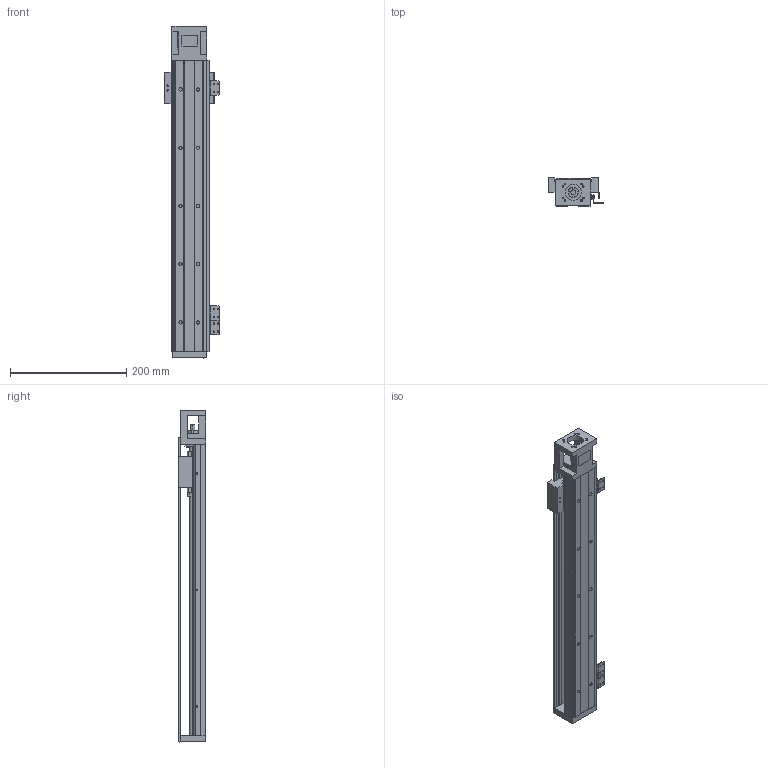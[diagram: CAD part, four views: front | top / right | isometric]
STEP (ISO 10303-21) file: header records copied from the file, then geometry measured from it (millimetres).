
FILE_DESCRIPTION (( 'STEP AP203' ), '1' );
FILE_NAME ('KH60D10C-500A1-F0CS0.STEP', '2023-12-27T03:42:28', ( '' ), ( '' ), 'SwSTEP 2.0', 'SolidWorks 2016', '' );
FILE_SCHEMA (( 'CONFIG_CONTROL_DESIGN' ));
Length unit declared in the file: millimetre
Products named in the file (39): KK60-08-01; 囀鞠褒麥芛蹟隊M3x5; 鞠褒蹟譫M3; B-KK60-A1-F0C; 000; KK60-04-07; 綴釱; 蛌諉啣; KH60-500; 錨璃2; 囀鞠褒す埴芛蹟隊M3℅5; KH60D10C-500A1-F0CS0; KH86-08-(SX674); KH86-08-SX674
Assembly tree (24 placements, depth 3):
  KK60-08-01
  囀鞠褒麥芛蹟隊M3x5
  KK60-08-01
  鞠褒蹟譫M3
  鞠褒蹟譫M3
Bounding box: 95.4 x 48 x 570 mm (x, y, z)
Volume: 700247.1 mm3; surface area: 261777 mm2
Topology: 21 solids, 39 shells, 1720 faces, 4534 edges, 2886 vertices
Faces by surface type: plane 727, cylinder 391, bspline 304, cone 298
Entity records: 47509 total; most frequent: CARTESIAN_POINT 12642, ORIENTED_EDGE 6989, DIRECTION 5583, EDGE_CURVE 3497, VERTEX_POINT 2303, VECTOR 2159, LINE 2159, AXIS2_PLACEMENT_3D 1712
